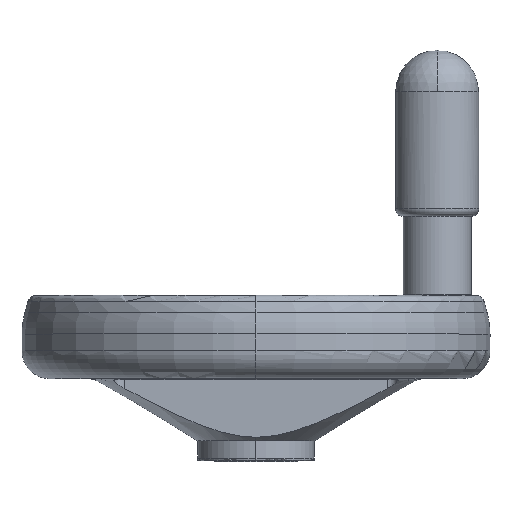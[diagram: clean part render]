
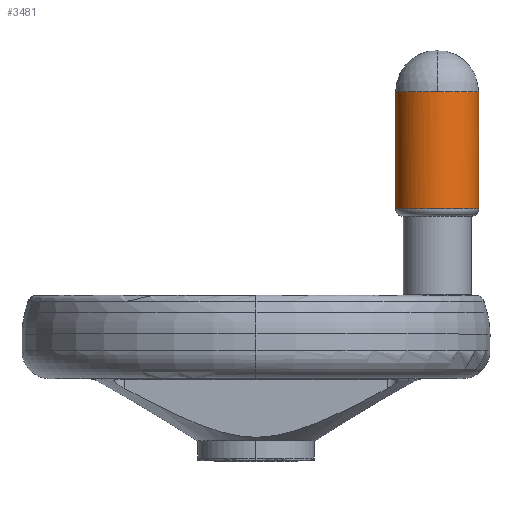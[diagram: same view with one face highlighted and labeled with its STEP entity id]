
A CAD part, top view. The second image highlights one B-rep face of the part: STEP entity #3481.
In plain terms, the highlighted cylindrical face has radius 11 mm (diameter 22 mm), a partial arc.
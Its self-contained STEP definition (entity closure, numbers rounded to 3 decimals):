
#15 = FACE_OUTER_BOUND ( 'NONE', #1982, .T. ) ;
#35 = CARTESIAN_POINT ( 'NONE',  ( 59., 98., 1.44 ) ) ;
#137 = EDGE_CURVE ( 'NONE', #3350, #441, #6000, .T. ) ;
#207 = CARTESIAN_POINT ( 'NONE',  ( 46.56, 98., 11. ) ) ;
#211 = CARTESIAN_POINT ( 'NONE',  ( 37., 67., 1.44 ) ) ;
#407 = DIRECTION ( 'NONE',  ( 1., 0., 0. ) ) ;
#421 = B_SPLINE_CURVE_WITH_KNOTS ( 'NONE', 3,
 ( #546, #3711, #4833, #1542 ),
 .UNSPECIFIED., .F., .F.,
 ( 4, 4 ),
 ( 0., 1. ),
 .UNSPECIFIED. ) ;
#441 = VERTEX_POINT ( 'NONE', #6069 ) ;
#546 = CARTESIAN_POINT ( 'NONE',  ( 59., 98., 0. ) ) ;
#676 = CARTESIAN_POINT ( 'NONE',  ( 45.121, 67., 10.714 ) ) ;
#738 = EDGE_CURVE ( 'NONE', #5173, #3350, #1561, .T. ) ;
#740 = CARTESIAN_POINT ( 'NONE',  ( 42.46, 98., 9.612 ) ) ;
#755 = B_SPLINE_CURVE_WITH_KNOTS ( 'NONE', 3,
 ( #5355, #35, #4243, #6341, #3761, #5830, #4813, #1135, #5320, #6542 ),
 .UNSPECIFIED., .F., .F.,
 ( 4, 2, 2, 2, 4 ),
 ( 0., 0.25, 0.5, 0.75, 1. ),
 .UNSPECIFIED. ) ;
#936 = CARTESIAN_POINT ( 'NONE',  ( 59., 98., 0. ) ) ;
#1135 = CARTESIAN_POINT ( 'NONE',  ( 50.879, 98., 10.714 ) ) ;
#1237 = CARTESIAN_POINT ( 'NONE',  ( 38.388, 98., 5.54 ) ) ;
#1240 = CARTESIAN_POINT ( 'NONE',  ( 39.204, 67., 6.76 ) ) ;
#1272 = EDGE_CURVE ( 'NONE', #5118, #5173, #421, .T. ) ;
#1392 = CARTESIAN_POINT ( 'NONE',  ( 37., 67., 0. ) ) ;
#1461 = CARTESIAN_POINT ( 'NONE',  ( 37., 67., 0. ) ) ;
#1493 = DIRECTION ( 'NONE',  ( 0., 1., 0. ) ) ;
#1542 = CARTESIAN_POINT ( 'NONE',  ( 59., 67., 0. ) ) ;
#1561 = B_SPLINE_CURVE_WITH_KNOTS ( 'NONE', 3,
 ( #6032, #2818, #5501, #5960, #3870, #2855, #1716, #5889, #4417, #5463, #676, #5994, #5928, #1240, #2748, #2893, #211, #5431 ),
 .UNSPECIFIED., .F., .F.,
 ( 4, 2, 2, 2, 2, 2, 2, 2, 4 ),
 ( 0., 0.125, 0.25, 0.375, 0.5, 0.625, 0.75, 0.875, 1. ),
 .UNSPECIFIED. ) ;
#1716 = CARTESIAN_POINT ( 'NONE',  ( 53.54, 67., 9.612 ) ) ;
#1731 = ORIENTED_EDGE ( 'NONE', *, *, #137, .F. ) ;
#1982 = EDGE_LOOP ( 'NONE', ( #2396, #2976, #1731, #4102, #2247 ) ) ;
#2247 = ORIENTED_EDGE ( 'NONE', *, *, #1272, .F. ) ;
#2311 = CARTESIAN_POINT ( 'NONE',  ( 37.286, 98., 2.879 ) ) ;
#2396 = ORIENTED_EDGE ( 'NONE', *, *, #3973, .T. ) ;
#2496 = CARTESIAN_POINT ( 'NONE',  ( 48., 109., 0. ) ) ;
#2748 = CARTESIAN_POINT ( 'NONE',  ( 38.388, 67., 5.54 ) ) ;
#2815 = CARTESIAN_POINT ( 'NONE',  ( 45.121, 98., 10.714 ) ) ;
#2818 = CARTESIAN_POINT ( 'NONE',  ( 59., 67., 1.44 ) ) ;
#2850 = CARTESIAN_POINT ( 'NONE',  ( 48., 98., 11. ) ) ;
#2855 = CARTESIAN_POINT ( 'NONE',  ( 54.76, 67., 8.796 ) ) ;
#2856 = AXIS2_PLACEMENT_3D ( 'NONE', #2496, #1493, #407 ) ;
#2893 = CARTESIAN_POINT ( 'NONE',  ( 37.286, 67., 2.879 ) ) ;
#2976 = ORIENTED_EDGE ( 'NONE', *, *, #4612, .T. ) ;
#3329 = CARTESIAN_POINT ( 'NONE',  ( 37., 98., 0. ) ) ;
#3350 = VERTEX_POINT ( 'NONE', #1392 ) ;
#3481 = ADVANCED_FACE ( 'NONE', ( #15 ), #6185, .T. ) ;
#3711 = CARTESIAN_POINT ( 'NONE',  ( 59., 87.667, 0. ) ) ;
#3761 = CARTESIAN_POINT ( 'NONE',  ( 56.796, 98., 6.76 ) ) ;
#3870 = CARTESIAN_POINT ( 'NONE',  ( 56.796, 67., 6.76 ) ) ;
#3973 = EDGE_CURVE ( 'NONE', #5118, #4014, #755, .T. ) ;
#4014 = VERTEX_POINT ( 'NONE', #2850 ) ;
#4102 = ORIENTED_EDGE ( 'NONE', *, *, #738, .F. ) ;
#4243 = CARTESIAN_POINT ( 'NONE',  ( 58.714, 98., 2.879 ) ) ;
#4332 = B_SPLINE_CURVE_WITH_KNOTS ( 'NONE', 3,
 ( #6483, #207, #2815, #740, #5925, #4917, #1237, #2311, #4413, #3329 ),
 .UNSPECIFIED., .F., .F.,
 ( 4, 2, 2, 2, 4 ),
 ( 0., 0.25, 0.5, 0.75, 1. ),
 .UNSPECIFIED. ) ;
#4413 = CARTESIAN_POINT ( 'NONE',  ( 37., 98., 1.44 ) ) ;
#4417 = CARTESIAN_POINT ( 'NONE',  ( 49.44, 67., 11. ) ) ;
#4612 = EDGE_CURVE ( 'NONE', #4014, #441, #4332, .T. ) ;
#4698 = CARTESIAN_POINT ( 'NONE',  ( 37., 77.333, 0. ) ) ;
#4813 = CARTESIAN_POINT ( 'NONE',  ( 53.54, 98., 9.612 ) ) ;
#4833 = CARTESIAN_POINT ( 'NONE',  ( 59., 77.333, 0. ) ) ;
#4917 = CARTESIAN_POINT ( 'NONE',  ( 39.204, 98., 6.76 ) ) ;
#5118 = VERTEX_POINT ( 'NONE', #936 ) ;
#5173 = VERTEX_POINT ( 'NONE', #6265 ) ;
#5320 = CARTESIAN_POINT ( 'NONE',  ( 49.44, 98., 11. ) ) ;
#5355 = CARTESIAN_POINT ( 'NONE',  ( 59., 98., 0. ) ) ;
#5431 = CARTESIAN_POINT ( 'NONE',  ( 37., 67., 0. ) ) ;
#5463 = CARTESIAN_POINT ( 'NONE',  ( 46.56, 67., 11. ) ) ;
#5501 = CARTESIAN_POINT ( 'NONE',  ( 58.714, 67., 2.879 ) ) ;
#5830 = CARTESIAN_POINT ( 'NONE',  ( 54.76, 98., 8.796 ) ) ;
#5889 = CARTESIAN_POINT ( 'NONE',  ( 50.879, 67., 10.714 ) ) ;
#5925 = CARTESIAN_POINT ( 'NONE',  ( 41.24, 98., 8.796 ) ) ;
#5928 = CARTESIAN_POINT ( 'NONE',  ( 41.24, 67., 8.796 ) ) ;
#5960 = CARTESIAN_POINT ( 'NONE',  ( 57.612, 67., 5.54 ) ) ;
#5994 = CARTESIAN_POINT ( 'NONE',  ( 42.46, 67., 9.612 ) ) ;
#6000 = B_SPLINE_CURVE_WITH_KNOTS ( 'NONE', 3,
 ( #1461, #4698, #6755, #6664 ),
 .UNSPECIFIED., .F., .F.,
 ( 4, 4 ),
 ( 0., 1. ),
 .UNSPECIFIED. ) ;
#6032 = CARTESIAN_POINT ( 'NONE',  ( 59., 67., 0. ) ) ;
#6069 = CARTESIAN_POINT ( 'NONE',  ( 37., 98., 0. ) ) ;
#6185 = CYLINDRICAL_SURFACE ( 'NONE', #2856, 11. ) ;
#6265 = CARTESIAN_POINT ( 'NONE',  ( 59., 67., 0. ) ) ;
#6341 = CARTESIAN_POINT ( 'NONE',  ( 57.612, 98., 5.54 ) ) ;
#6483 = CARTESIAN_POINT ( 'NONE',  ( 48., 98., 11. ) ) ;
#6542 = CARTESIAN_POINT ( 'NONE',  ( 48., 98., 11. ) ) ;
#6664 = CARTESIAN_POINT ( 'NONE',  ( 37., 98., 0. ) ) ;
#6755 = CARTESIAN_POINT ( 'NONE',  ( 37., 87.667, 0. ) ) ;
